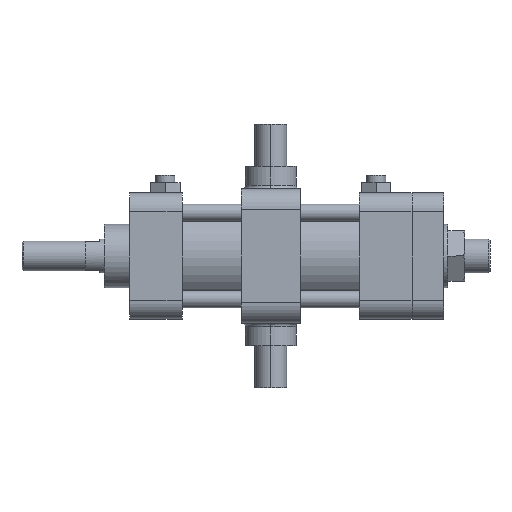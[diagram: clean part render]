
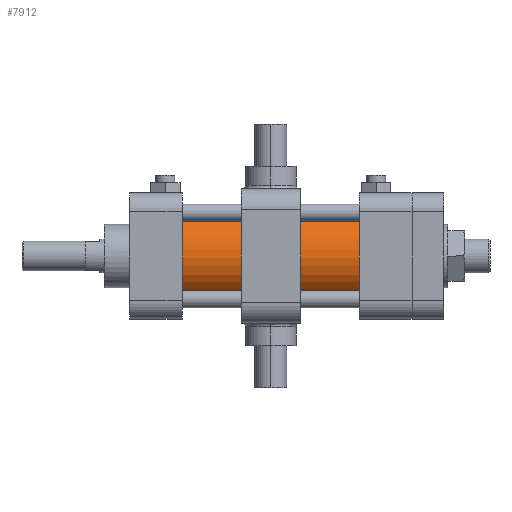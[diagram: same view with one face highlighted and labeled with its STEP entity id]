
A CAD part, front view. The second image highlights one B-rep face of the part: STEP entity #7912.
In plain terms, the highlighted cylindrical face has radius 23 mm (diameter 46 mm), a partial arc.
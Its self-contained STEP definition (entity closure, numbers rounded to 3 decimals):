
#102 = AXIS2_PLACEMENT_3D ( 'NONE', #7846, #2942, #8019 ) ;
#289 = DIRECTION ( 'NONE',  ( 0., 0., 1. ) ) ;
#469 = AXIS2_PLACEMENT_3D ( 'NONE', #11307, #6322, #2265 ) ;
#486 = EDGE_CURVE ( 'NONE', #6793, #5086, #6953, .T. ) ;
#534 = CARTESIAN_POINT ( 'NONE',  ( -42., 0., -23. ) ) ;
#2265 = DIRECTION ( 'NONE',  ( 0., 0., 1. ) ) ;
#2930 = CARTESIAN_POINT ( 'NONE',  ( 42., 0., 23. ) ) ;
#2942 = DIRECTION ( 'NONE',  ( -1., 0., 0. ) ) ;
#3588 = VECTOR ( 'NONE', #9612, 1000. ) ;
#3596 = LINE ( 'NONE', #7028, #5038 ) ;
#3729 = ORIENTED_EDGE ( 'NONE', *, *, #5217, .F. ) ;
#3730 = CIRCLE ( 'NONE', #102, 23. ) ;
#3814 = CARTESIAN_POINT ( 'NONE',  ( -29.1, 0., 23. ) ) ;
#4326 = EDGE_CURVE ( 'NONE', #6793, #7712, #3596, .T. ) ;
#5038 = VECTOR ( 'NONE', #10523, 1000. ) ;
#5086 = VERTEX_POINT ( 'NONE', #2930 ) ;
#5096 = AXIS2_PLACEMENT_3D ( 'NONE', #6574, #5293, #289 ) ;
#5217 = EDGE_CURVE ( 'NONE', #7712, #8358, #3730, .T. ) ;
#5225 = FACE_OUTER_BOUND ( 'NONE', #9475, .T. ) ;
#5278 = ORIENTED_EDGE ( 'NONE', *, *, #486, .T. ) ;
#5293 = DIRECTION ( 'NONE',  ( -1., 0., 0. ) ) ;
#5401 = CYLINDRICAL_SURFACE ( 'NONE', #469, 23. ) ;
#6259 = CARTESIAN_POINT ( 'NONE',  ( -42., 0., 23. ) ) ;
#6322 = DIRECTION ( 'NONE',  ( -1., 0., 0. ) ) ;
#6574 = CARTESIAN_POINT ( 'NONE',  ( 42., 0., 0. ) ) ;
#6793 = VERTEX_POINT ( 'NONE', #10845 ) ;
#6953 = CIRCLE ( 'NONE', #5096, 23. ) ;
#7028 = CARTESIAN_POINT ( 'NONE',  ( -29.1, 0., -23. ) ) ;
#7712 = VERTEX_POINT ( 'NONE', #534 ) ;
#7846 = CARTESIAN_POINT ( 'NONE',  ( -42., 0., 0. ) ) ;
#7912 = ADVANCED_FACE ( 'NONE', ( #5225 ), #5401, .T. ) ;
#7978 = ORIENTED_EDGE ( 'NONE', *, *, #4326, .F. ) ;
#8019 = DIRECTION ( 'NONE',  ( 0., 0., 1. ) ) ;
#8085 = ORIENTED_EDGE ( 'NONE', *, *, #9883, .T. ) ;
#8358 = VERTEX_POINT ( 'NONE', #6259 ) ;
#9064 = LINE ( 'NONE', #3814, #3588 ) ;
#9475 = EDGE_LOOP ( 'NONE', ( #7978, #5278, #8085, #3729 ) ) ;
#9612 = DIRECTION ( 'NONE',  ( -1., 0., 0. ) ) ;
#9883 = EDGE_CURVE ( 'NONE', #5086, #8358, #9064, .T. ) ;
#10523 = DIRECTION ( 'NONE',  ( -1., 0., 0. ) ) ;
#10845 = CARTESIAN_POINT ( 'NONE',  ( 42., 0., -23. ) ) ;
#11307 = CARTESIAN_POINT ( 'NONE',  ( -29.1, 0., 0. ) ) ;
